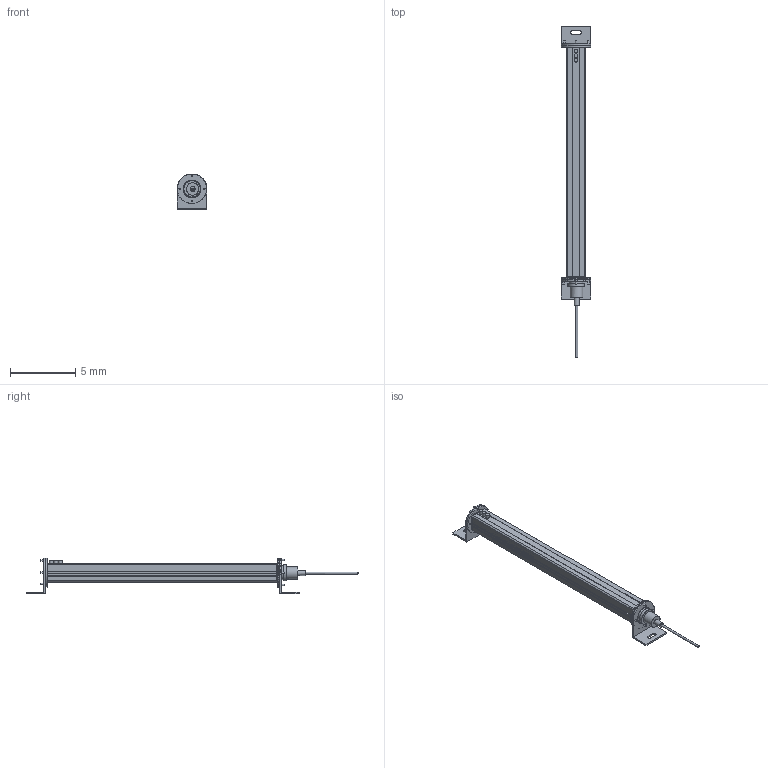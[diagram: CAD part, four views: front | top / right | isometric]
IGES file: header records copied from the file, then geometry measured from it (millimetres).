
Start section:  Autodesk DirectConnect version 7.0.27.0 ---- IGES version 5.3
Global section: file name: C:\ACADFILES\MG_PYLONS\CUSTOMER_FILES\MG-16-PYLON_3D_SMB.iges; native system: Autodesk DirectConnect 7.0.27.0; preprocessor: 7.0.27.0; author: ENGINEERMAIN; organization: Unknown; date: 20150810.133104; units: millimetre
Bounding box: 2.26 x 25.44 x 2.75 mm (x, y, z)
Surface area: 335.2 mm2 (no closed solid volume)
Topology: 0 solids, 0 shells, 771 faces, 3970 edges, 3969 vertices
Faces by surface type: bspline 771
